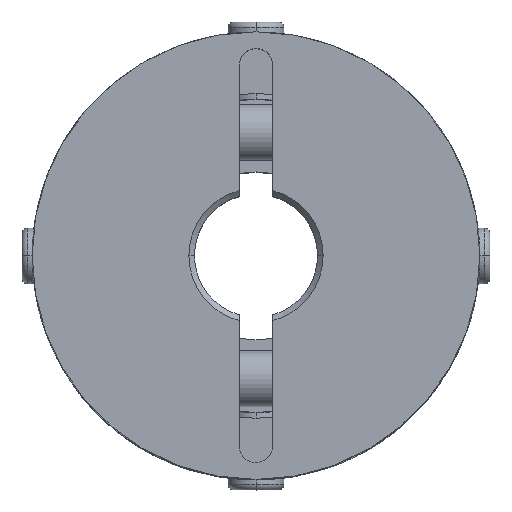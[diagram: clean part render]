
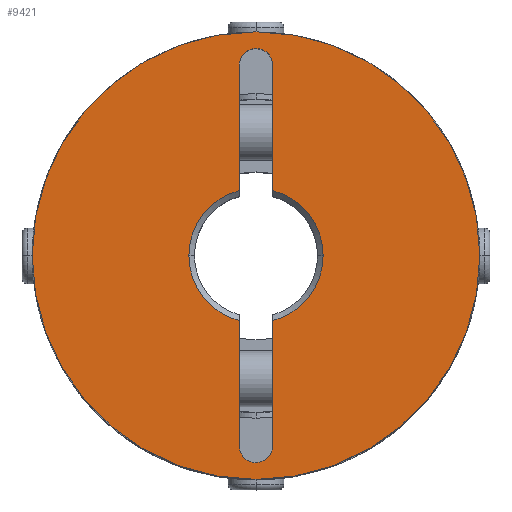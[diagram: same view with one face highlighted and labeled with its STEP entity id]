
A CAD part, top view. The second image highlights one B-rep face of the part: STEP entity #9421.
In plain terms, the highlighted planar face has unit normal (0, 0, 1).
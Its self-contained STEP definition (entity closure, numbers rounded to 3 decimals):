
#993=CARTESIAN_POINT('',(-20.0,0.,20.0));
#994=VERTEX_POINT('',#993);
#1001=CARTESIAN_POINT('',(20.0,0.0,20.0));
#1002=VERTEX_POINT('',#1001);
#1003=CARTESIAN_POINT('',(0.0,0.0,20.0));
#1004=DIRECTION('',(0.0,0.0,-1.0));
#1005=DIRECTION('',(1.0,0.0,0.0));
#1006=AXIS2_PLACEMENT_3D('',#1003,#1004,#1005);
#1007=CIRCLE('',#1006,20.0);
#1008=EDGE_CURVE('',#994,#1002,#1007,.T.);
#1319=CARTESIAN_POINT('',(-1.061,18.061,20.0));
#1320=VERTEX_POINT('',#1319);
#1336=CARTESIAN_POINT('',(1.5,17.,20.0));
#1337=VERTEX_POINT('',#1336);
#1344=CARTESIAN_POINT('',(0.,17.,20.0));
#1345=DIRECTION('',(0.0,0.0,1.));
#1346=DIRECTION('',(0.707,0.707,0.0));
#1347=AXIS2_PLACEMENT_3D('',#1344,#1345,#1346);
#1348=CIRCLE('',#1347,1.5);
#1349=EDGE_CURVE('',#1337,#1320,#1348,.T.);
#1361=CARTESIAN_POINT('',(1.061,-18.061,20.0));
#1362=VERTEX_POINT('',#1361);
#1378=CARTESIAN_POINT('',(-1.5,-17.,20.0));
#1379=VERTEX_POINT('',#1378);
#1386=CARTESIAN_POINT('',(0.0,-17.,20.0));
#1387=DIRECTION('',(0.0,0.0,1.0));
#1388=DIRECTION('',(-0.707,-0.707,0.0));
#1389=AXIS2_PLACEMENT_3D('',#1386,#1387,#1388);
#1390=CIRCLE('',#1389,1.5);
#1391=EDGE_CURVE('',#1379,#1362,#1390,.T.);
#1401=CARTESIAN_POINT('',(-6.0,0.,20.0));
#1402=VERTEX_POINT('',#1401);
#1409=CARTESIAN_POINT('',(-1.5,-5.809,20.0));
#1410=VERTEX_POINT('',#1409);
#1411=CARTESIAN_POINT('',(0.0,0.0,20.0));
#1412=DIRECTION('',(0.0,0.0,1.0));
#1413=DIRECTION('',(-1.0,0.0,0.0));
#1414=AXIS2_PLACEMENT_3D('',#1411,#1412,#1413);
#1415=CIRCLE('',#1414,6.0);
#1416=EDGE_CURVE('',#1402,#1410,#1415,.T.);
#1440=CARTESIAN_POINT('',(6.0,0.,20.0));
#1441=VERTEX_POINT('',#1440);
#1448=CARTESIAN_POINT('',(1.5,5.809,20.0));
#1449=VERTEX_POINT('',#1448);
#1450=CARTESIAN_POINT('',(0.0,0.0,20.0));
#1451=DIRECTION('',(0.0,0.0,1.0));
#1452=DIRECTION('',(1.0,0.0,0.0));
#1453=AXIS2_PLACEMENT_3D('',#1450,#1451,#1452);
#1454=CIRCLE('',#1453,6.0);
#1455=EDGE_CURVE('',#1441,#1449,#1454,.T.);
#9226=CARTESIAN_POINT('',(-1.5,17.,20.0));
#9227=VERTEX_POINT('',#9226);
#9234=CARTESIAN_POINT('',(-1.5,5.809,20.0));
#9235=VERTEX_POINT('',#9234);
#9236=CARTESIAN_POINT('',(-1.5,5.809,20.0));
#9237=DIRECTION('',(0.0,1.0,0.0));
#9238=VECTOR('',#9237,11.191);
#9239=LINE('',#9236,#9238);
#9240=EDGE_CURVE('',#9235,#9227,#9239,.T.);
#9315=CARTESIAN_POINT('',(1.5,17.,20.0));
#9316=DIRECTION('',(0.0,-1.0,0.0));
#9317=VECTOR('',#9316,11.191);
#9318=LINE('',#9315,#9317);
#9319=EDGE_CURVE('',#1337,#1449,#9318,.T.);
#9337=CARTESIAN_POINT('',(1.5,-5.809,20.0));
#9338=VERTEX_POINT('',#9337);
#9352=CARTESIAN_POINT('',(0.0,0.0,20.0));
#9353=DIRECTION('',(0.0,0.0,1.0));
#9354=DIRECTION('',(1.0,0.0,0.0));
#9355=AXIS2_PLACEMENT_3D('',#9352,#9353,#9354);
#9356=CIRCLE('',#9355,6.0);
#9357=EDGE_CURVE('',#9338,#1441,#9356,.T.);
#9362=CARTESIAN_POINT('',(1.818,0.,20.0));
#9363=DIRECTION('',(0.0,0.0,1.0));
#9364=DIRECTION('',(1.0,0.0,0.0));
#9365=AXIS2_PLACEMENT_3D('',#9362,#9363,#9364);
#9366=PLANE('',#9365);
#9367=CARTESIAN_POINT('',(0.0,0.0,20.0));
#9368=DIRECTION('',(0.0,0.0,-1.0));
#9369=DIRECTION('',(1.0,0.0,0.0));
#9370=AXIS2_PLACEMENT_3D('',#9367,#9368,#9369);
#9371=CIRCLE('',#9370,20.0);
#9372=EDGE_CURVE('',#1002,#994,#9371,.T.);
#9373=ORIENTED_EDGE('',*,*,#9372,.F.);
#9374=ORIENTED_EDGE('',*,*,#1008,.F.);
#9375=EDGE_LOOP('',(#9373,#9374));
#9376=FACE_OUTER_BOUND('',#9375,.T.);
#9377=ORIENTED_EDGE('',*,*,#9357,.F.);
#9378=CARTESIAN_POINT('',(1.5,-17.,20.0));
#9379=VERTEX_POINT('',#9378);
#9380=CARTESIAN_POINT('',(1.5,-5.809,20.0));
#9381=DIRECTION('',(0.0,-1.0,0.0));
#9382=VECTOR('',#9381,11.191);
#9383=LINE('',#9380,#9382);
#9384=EDGE_CURVE('',#9338,#9379,#9383,.T.);
#9385=ORIENTED_EDGE('',*,*,#9384,.T.);
#9386=CARTESIAN_POINT('',(0.0,-17.,20.0));
#9387=DIRECTION('',(0.0,0.0,1.0));
#9388=DIRECTION('',(-0.707,-0.707,0.0));
#9389=AXIS2_PLACEMENT_3D('',#9386,#9387,#9388);
#9390=CIRCLE('',#9389,1.5);
#9391=EDGE_CURVE('',#1362,#9379,#9390,.T.);
#9392=ORIENTED_EDGE('',*,*,#9391,.F.);
#9393=ORIENTED_EDGE('',*,*,#1391,.F.);
#9394=CARTESIAN_POINT('',(-1.5,-17.,20.0));
#9395=DIRECTION('',(0.0,1.0,0.0));
#9396=VECTOR('',#9395,11.191);
#9397=LINE('',#9394,#9396);
#9398=EDGE_CURVE('',#1379,#1410,#9397,.T.);
#9399=ORIENTED_EDGE('',*,*,#9398,.T.);
#9400=ORIENTED_EDGE('',*,*,#1416,.F.);
#9401=CARTESIAN_POINT('',(0.0,0.0,20.0));
#9402=DIRECTION('',(0.0,0.0,1.0));
#9403=DIRECTION('',(-1.0,0.0,0.0));
#9404=AXIS2_PLACEMENT_3D('',#9401,#9402,#9403);
#9405=CIRCLE('',#9404,6.0);
#9406=EDGE_CURVE('',#9235,#1402,#9405,.T.);
#9407=ORIENTED_EDGE('',*,*,#9406,.F.);
#9408=ORIENTED_EDGE('',*,*,#9240,.T.);
#9409=CARTESIAN_POINT('',(0.,17.,20.0));
#9410=DIRECTION('',(0.0,0.0,1.));
#9411=DIRECTION('',(0.707,0.707,0.0));
#9412=AXIS2_PLACEMENT_3D('',#9409,#9410,#9411);
#9413=CIRCLE('',#9412,1.5);
#9414=EDGE_CURVE('',#1320,#9227,#9413,.T.);
#9415=ORIENTED_EDGE('',*,*,#9414,.F.);
#9416=ORIENTED_EDGE('',*,*,#1349,.F.);
#9417=ORIENTED_EDGE('',*,*,#9319,.T.);
#9418=ORIENTED_EDGE('',*,*,#1455,.F.);
#9419=EDGE_LOOP('',(#9377,#9385,#9392,#9393,#9399,#9400,#9407,#9408,#9415,#9416,#9417,#9418));
#9420=FACE_BOUND('',#9419,.T.);
#9421=ADVANCED_FACE('',(#9376,#9420),#9366,.T.);
